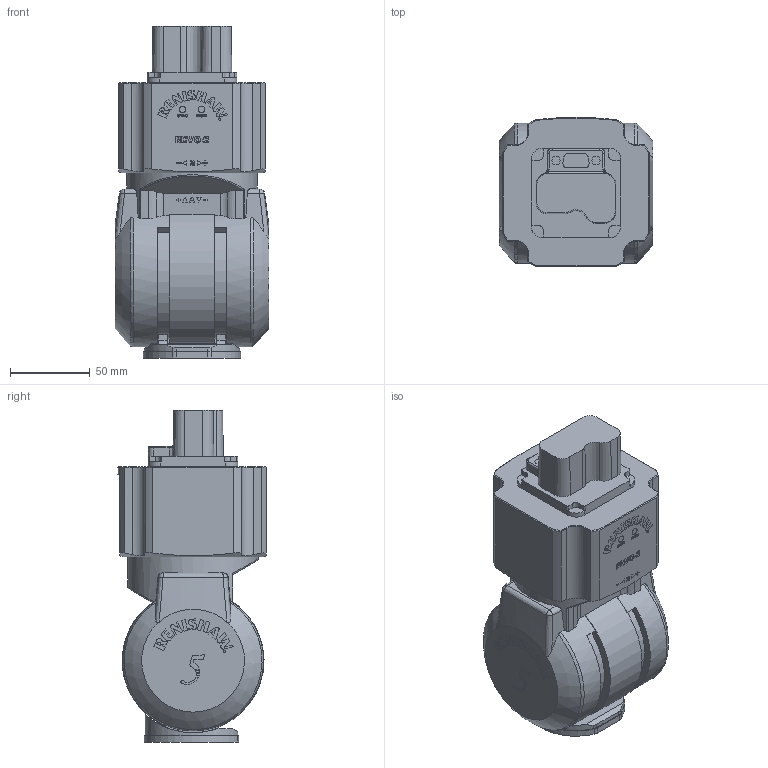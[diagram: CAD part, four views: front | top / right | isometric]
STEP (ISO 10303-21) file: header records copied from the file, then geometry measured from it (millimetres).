
FILE_DESCRIPTION(/* description */ (''),/* implementation_level */ '2;1');
FILE_NAME(/* name */ 'LA-5759-0300-E.stp',/* time_stamp */ '2015-06-29T09:59:32+01:00',/* author */ (''),/* organization */ (''),/* preprocessor_version */ 'ST-DEVELOPER v11',/* originating_system */ 'SIEMENS PLM Software NX 7.5',/* authorisation */ '');
FILE_SCHEMA (('AUTOMOTIVE_DESIGN { 1 0 10303 214 1 1 1 1 }'));
Length unit declared in the file: millimetre
Products named in the file (1): rt139CD1p0sn
Bounding box: 96.45 x 93.33 x 208.04 mm (x, y, z)
Volume: 1196511 mm3; surface area: 97231.5 mm2
Topology: 3 solids, 3 shells, 282 faces, 1737 edges, 1540 vertices
Faces by surface type: plane 166, cylinder 59, cone 23, bspline 22, sphere 6, extrusion 4, torus 2
Full cylindrical faces by diameter (mm): 82 x1
Entity records: 21567 total; most frequent: CARTESIAN_POINT 8415, ORIENTED_EDGE 3458, EDGE_CURVE 1729, VERTEX_POINT 1538, B_SPLINE_CURVE_WITH_KNOTS 1309, DIRECTION 1118, AXIS2_PLACEMENT_3D 433, EDGE_LOOP 367
